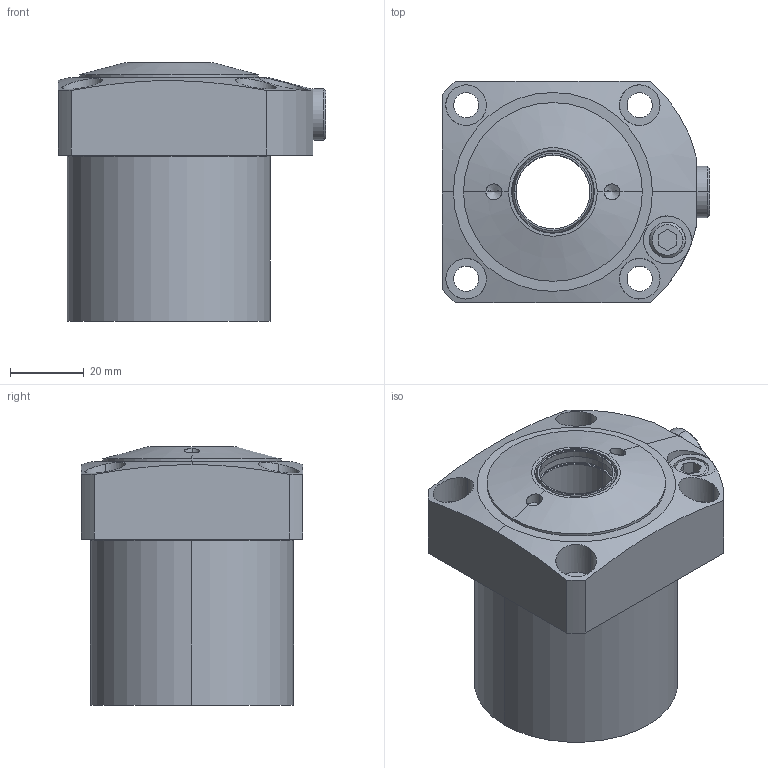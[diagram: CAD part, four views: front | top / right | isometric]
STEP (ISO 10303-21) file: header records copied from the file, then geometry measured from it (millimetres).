
FILE_DESCRIPTION(/* description */ (''),/* implementation_level */ '2;1');
FILE_NAME(/* name */ 'KFSS55-C.stp',/* time_stamp */ '2022-11-17T07:54:02+08:00',/* author */ (''),/* organization */ (''),/* preprocessor_version */ 'ST-DEVELOPER v16.7',/* originating_system */ 'SIEMENS PLM Software NX 12.0',/* authorisation */ '');
FILE_SCHEMA (('AP203_CONFIGURATION_CONTROLLED_3D_DESIGN_OF_MECHANICAL_PARTS_AND_ASSEMBLIES_MIM_LF { 1 0 10303 403 2 1 2}'));
Length unit declared in the file: millimetre
Products named in the file (4): KFSS55-C-01; KFSS55-C-02; KFSS55-C-03; LC0552-Cx-D_step
Assembly tree (3 placements, depth 2):
  LC0552-Cx-D_step
    KFSS55-C-03
    KFSS55-C-02
    KFSS55-C-01
Bounding box: 72.5 x 60 x 70 mm (x, y, z)
Volume: 163744.8 mm3; surface area: 28207.1 mm2
Topology: 3 solids, 3 shells, 158 faces, 343 edges, 206 vertices
Faces by surface type: cylinder 55, cone 44, plane 41, torus 18
Entity records: 4933 total; most frequent: CARTESIAN_POINT 942, DIRECTION 816, ORIENTED_EDGE 678, EDGE_CURVE 339, AXIS2_PLACEMENT_3D 336, VERTEX_POINT 206, EDGE_LOOP 187, CIRCLE 174
